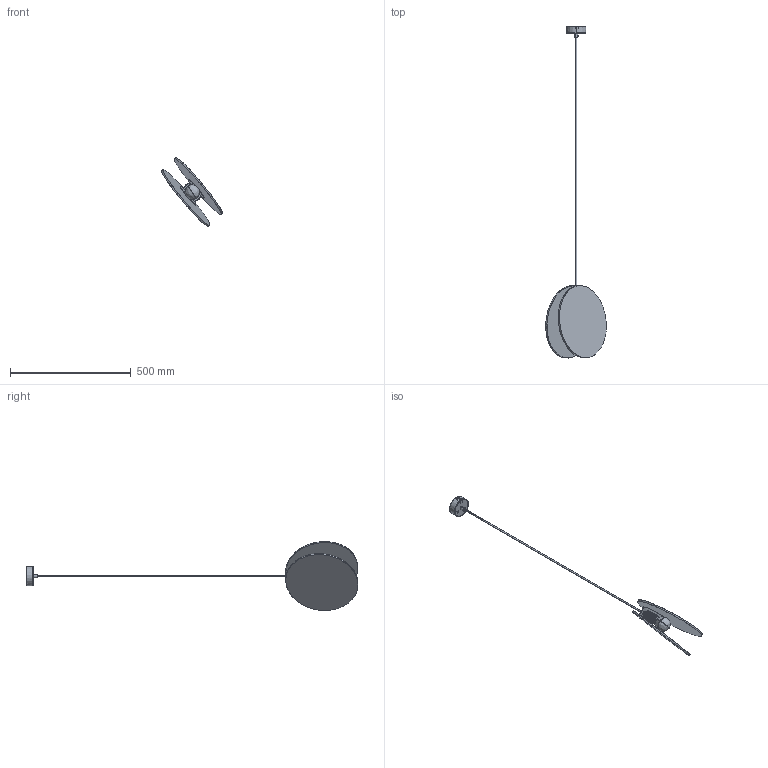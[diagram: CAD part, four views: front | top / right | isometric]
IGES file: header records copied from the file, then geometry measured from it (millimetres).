
Start section: SolidWorks IGES file using analytic representation for surfaces
Global section: file name: F:\GABRYSIA\MODELE 3D\WHEEL_9028_9033_WWW\WHEEL_9028_9033.IGS; native system: SolidWorks 2017; preprocessor: SolidWorks 2017; author: Togambi; date: 200629.192007; units: millimetre
Bounding box: 250.41 x 1374.08 x 284.91 mm (x, y, z)
Surface area: 436963.2 mm2 (no closed solid volume)
Topology: 0 solids, 0 shells, 772 faces, 9102 edges, 9067 vertices
Faces by surface type: bspline 388, revolution 384
